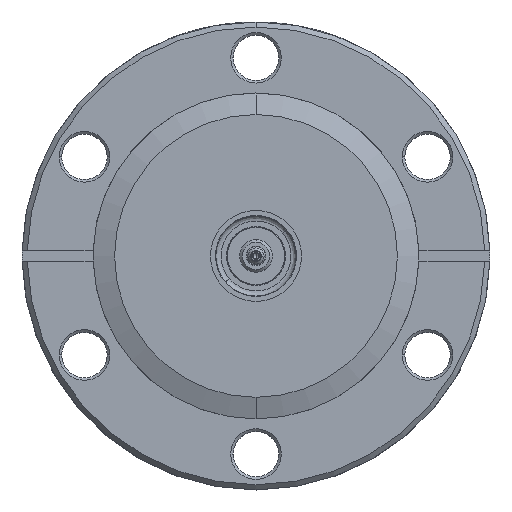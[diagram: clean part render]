
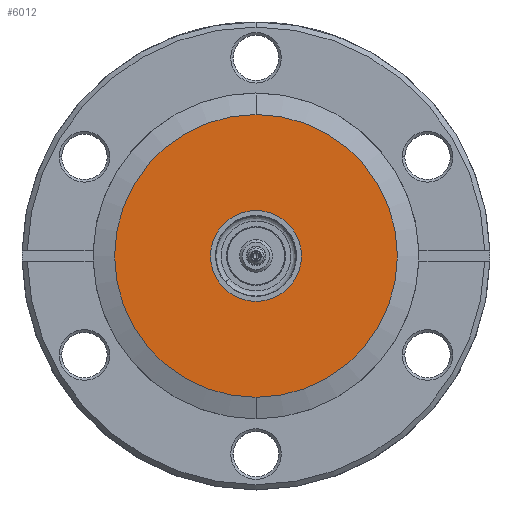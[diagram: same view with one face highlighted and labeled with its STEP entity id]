
A CAD part, top view. The second image highlights one B-rep face of the part: STEP entity #6012.
In plain terms, the highlighted planar face has unit normal (0, 0, 1).
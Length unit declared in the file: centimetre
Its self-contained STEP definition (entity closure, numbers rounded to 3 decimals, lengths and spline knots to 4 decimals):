
#1404 = CIRCLE ( 'NONE', #33402, 2.0955 ) ;
#4059 = DIRECTION ( 'NONE',  ( 0., 0., 1. ) ) ;
#4073 = CARTESIAN_POINT ( 'NONE',  ( -2.0955, 0., -0.1295 ) ) ;
#4074 = PLANE ( 'NONE',  #39886 ) ;
#4076 = DIRECTION ( 'NONE',  ( 1., 0., 0. ) ) ;
#4840 = VERTEX_POINT ( 'NONE', #44913 ) ;
#4841 = VERTEX_POINT ( 'NONE', #44914 ) ;
#6012 = ADVANCED_FACE ( 'NONE', ( #17725, #17720 ), #4074, .T. ) ;
#6242 = EDGE_CURVE ( 'NONE', #12034, #12035, #18190, .T. ) ;
#6365 = EDGE_CURVE ( 'NONE', #4841, #4840, #18401, .T. ) ;
#9654 = CIRCLE ( 'NONE', #44743, 0.6744 ) ;
#12034 = VERTEX_POINT ( 'NONE', #37475 ) ;
#12035 = VERTEX_POINT ( 'NONE', #37476 ) ;
#17720 = FACE_BOUND ( 'NONE', #21867, .T. ) ;
#17725 = FACE_OUTER_BOUND ( 'NONE', #21869, .T. ) ;
#18190 = CIRCLE ( 'NONE', #39965, 2.0955 ) ;
#18401 = CIRCLE ( 'NONE', #39997, 0.6744 ) ;
#18960 = CARTESIAN_POINT ( 'NONE',  ( 0., 0., -0.1295 ) ) ;
#18961 = DIRECTION ( 'NONE',  ( 0., 0., 1. ) ) ;
#18962 = DIRECTION ( 'NONE',  ( -1., 0., 0. ) ) ;
#19673 = CARTESIAN_POINT ( 'NONE',  ( 0., 0., -0.1295 ) ) ;
#19674 = DIRECTION ( 'NONE',  ( 0., 0., -1. ) ) ;
#19675 = DIRECTION ( 'NONE',  ( 1., 0., 0. ) ) ;
#20508 = EDGE_CURVE ( 'NONE', #4840, #4841, #9654, .T. ) ;
#21867 = EDGE_LOOP ( 'NONE', ( #44290, #44400 ) ) ;
#21869 = EDGE_LOOP ( 'NONE', ( #44266, #44264 ) ) ;
#26288 = CARTESIAN_POINT ( 'NONE',  ( 0., 0., -0.1295 ) ) ;
#26290 = DIRECTION ( 'NONE',  ( 0., 0., 1. ) ) ;
#26292 = DIRECTION ( 'NONE',  ( -1., 0., 0. ) ) ;
#27572 = CARTESIAN_POINT ( 'NONE',  ( 0., 0., -0.1295 ) ) ;
#27573 = DIRECTION ( 'NONE',  ( 0., 0., -1. ) ) ;
#27574 = DIRECTION ( 'NONE',  ( 1., 0., 0. ) ) ;
#33402 = AXIS2_PLACEMENT_3D ( 'NONE', #26288, #26290, #26292 ) ;
#37475 = CARTESIAN_POINT ( 'NONE',  ( 2.0955, 0., -0.1295 ) ) ;
#37476 = CARTESIAN_POINT ( 'NONE',  ( -2.0955, 0., -0.1295 ) ) ;
#39886 = AXIS2_PLACEMENT_3D ( 'NONE', #4073, #4059, #4076 ) ;
#39965 = AXIS2_PLACEMENT_3D ( 'NONE', #18960, #18961, #18962 ) ;
#39997 = AXIS2_PLACEMENT_3D ( 'NONE', #19673, #19674, #19675 ) ;
#40416 = EDGE_CURVE ( 'NONE', #12035, #12034, #1404, .T. ) ;
#44264 = ORIENTED_EDGE ( 'NONE', *, *, #6242, .T. ) ;
#44266 = ORIENTED_EDGE ( 'NONE', *, *, #40416, .T. ) ;
#44290 = ORIENTED_EDGE ( 'NONE', *, *, #20508, .T. ) ;
#44400 = ORIENTED_EDGE ( 'NONE', *, *, #6365, .T. ) ;
#44743 = AXIS2_PLACEMENT_3D ( 'NONE', #27572, #27573, #27574 ) ;
#44913 = CARTESIAN_POINT ( 'NONE',  ( 0.6744, 0., -0.1295 ) ) ;
#44914 = CARTESIAN_POINT ( 'NONE',  ( -0.6744, 0., -0.1295 ) ) ;
